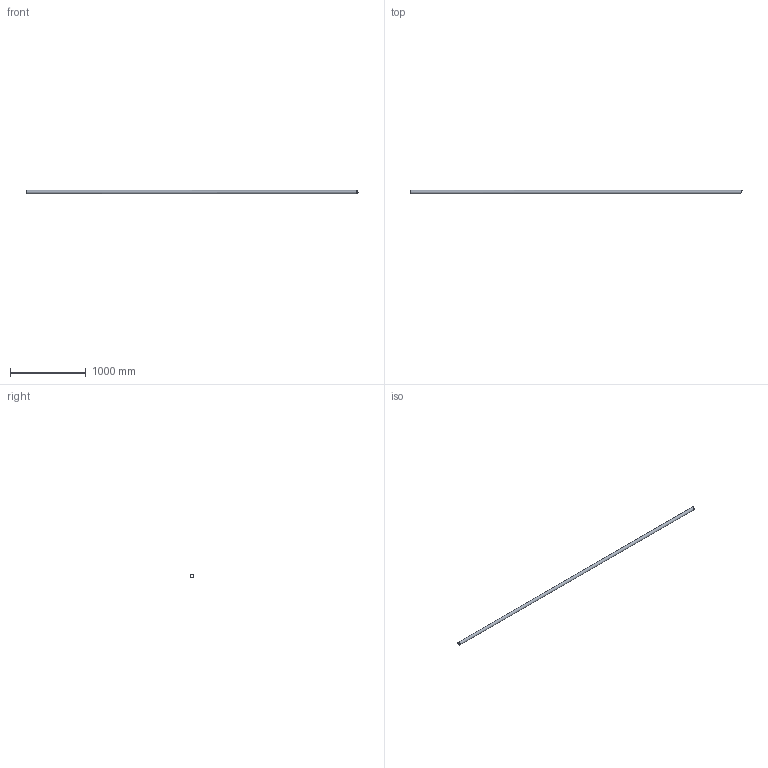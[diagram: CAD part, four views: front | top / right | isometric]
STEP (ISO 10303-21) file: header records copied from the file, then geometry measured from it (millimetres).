
FILE_DESCRIPTION(/* description */ (''),/* implementation_level */ '2;1');
FILE_NAME(/* name */ 'Pos111-Constructie buis 42.4x2.6-S235JRH-4st',/* time_stamp */ '2024-08-06T11:42:42+02:00',/* author */ (''),/* organization */ (''),/* preprocessor_version */ 'ST-DEVELOPER v16.5',/* originating_system */ 'HiCAD 2024 2901.2 Build 361',/* authorisation */ '');
FILE_SCHEMA (('AUTOMOTIVE_DESIGN { 1 0 10303 214 1 1 1 1 }'));
Length unit declared in the file: millimetre
Products named in the file (1): Pos111-Constructie buis 42.4x2.6-S235JRH-4st
Bounding box: 4370.14 x 42.4 x 42.4 mm (x, y, z)
Volume: 1417844.1 mm3; surface area: 1091326.1 mm2
Topology: 1 solids, 1 shells, 4 faces, 6 edges, 4 vertices
Faces by surface type: cylinder 2, plane 2
Full cylindrical faces by diameter (mm): 37.2 x1, 42.4 x1
Entity records: 146 total; most frequent: DIRECTION 16, CARTESIAN_POINT 12, PRESENTATION_STYLE_ASSIGNMENT 9, COLOUR_RGB 9, DRAUGHTING_PRE_DEFINED_CURVE_FONT 8, CURVE_STYLE 8, OVER_RIDING_STYLED_ITEM 8, ORIENTED_EDGE 8
